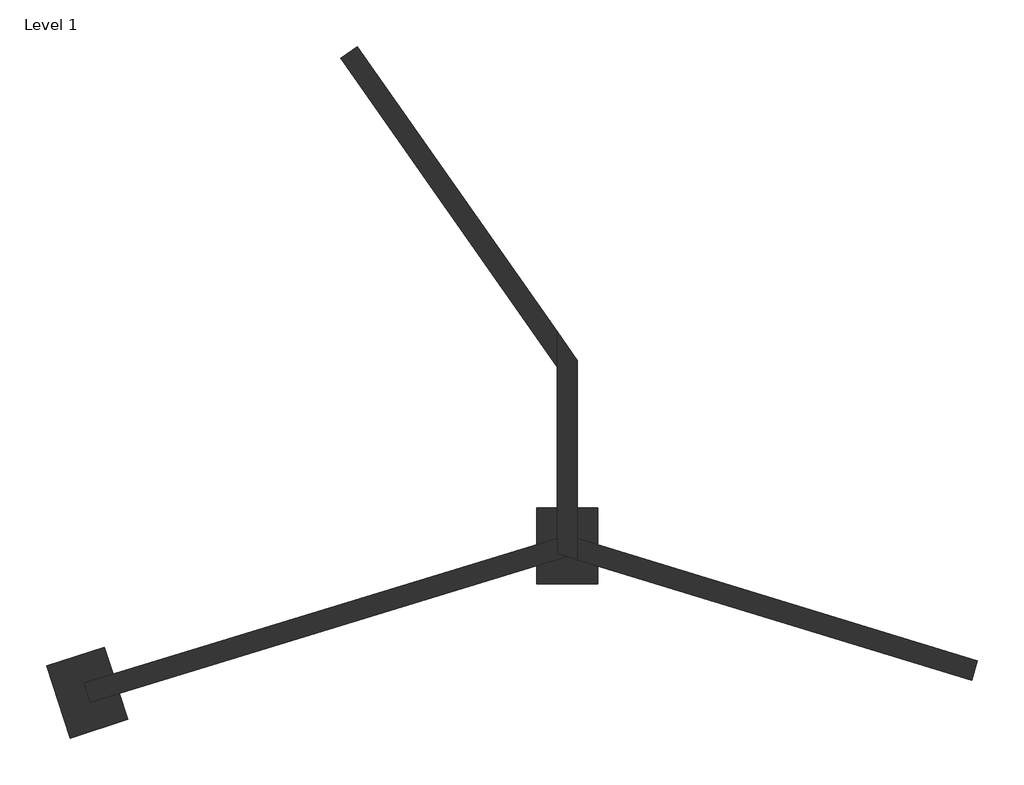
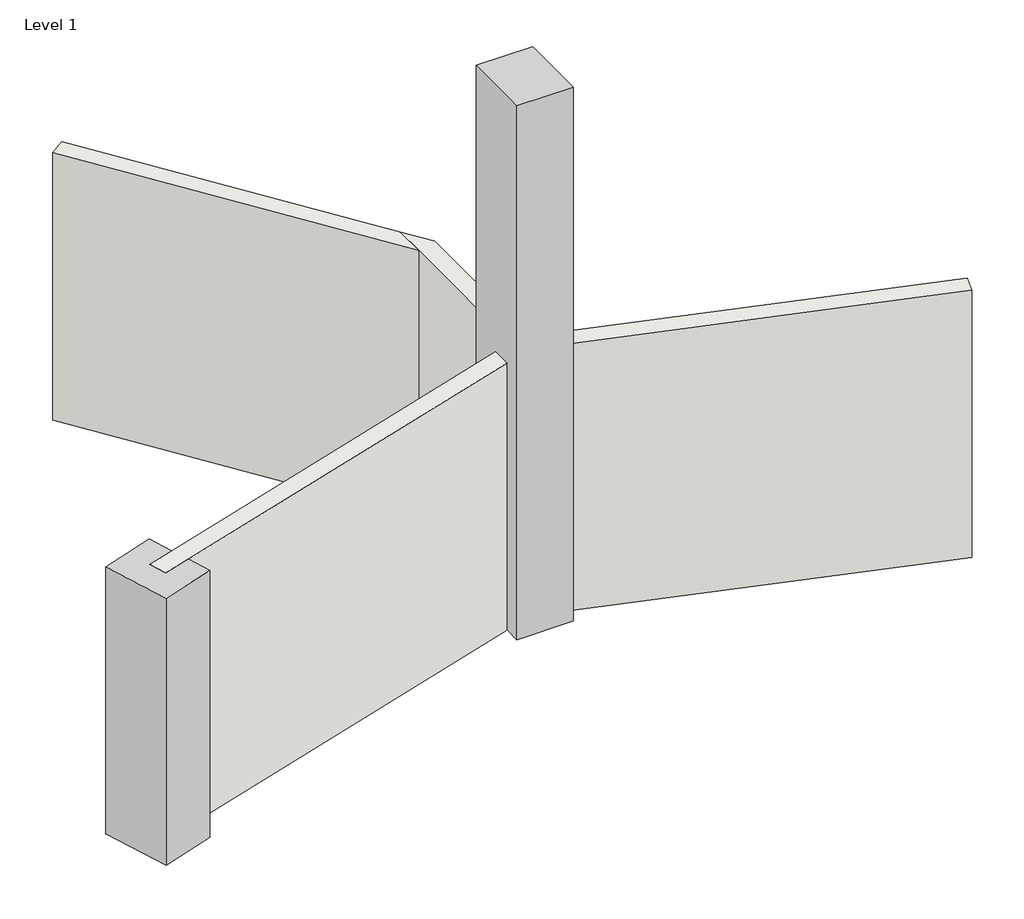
# One storey: 4 walls, 2 columns.
"""IFC4 building model written with IfcOpenShell, lengths in millimetres."""

from ifc_helpers import new_model, si_unit, origin, origin_with_axes, place, context, project, spatial, polyline, outline, extrude, faceted_brep, element, save

model = new_model("IFC4")

# Units and contexts
model_context = context("Model", 3, world=origin())
ifc_project = project(units=[si_unit("LENGTHUNIT", "METRE", prefix="MILLI")], contexts=[model_context])

# Site, building, storey
site = spatial("IfcSite", under=ifc_project)
building = spatial("IfcBuilding", under=site)
storey = spatial("IfcBuildingStorey", under=building, Name="Level 1", Elevation=0.0)

# Columns
placement = place(None, origin())
element("IfcColumn", 1, ObjectType="Concrete-Rectangular-Column : 24 x 30", at=placement, inside=storey, context=model_context, shape_type="Brep", body=[
    faceted_brep([(14725.7003136, 17168.388492, 0.0), (14928.9003136, 17168.388492, 0.0), (14928.9003136, 16800.4440627, 0.0), (14725.7003136, 16862.5685372, 0.0), (14928.9003136, 17168.388492, 6096.0), (14928.9003136, 16406.388492, 6096.0), (14928.9003136, 16406.388492, 0.0), (14928.9003136, 16587.9594978, 0.0), (14928.9003136, 16587.9594978, 3048.0), (14928.9003136, 16800.4440627, 3048.0), (14319.3003136, 16406.388492, 0.0), (14319.3003136, 16406.388492, 6096.0), (14319.3003136, 17168.388492, 6096.0), (14319.3003136, 17168.388492, 0.0), (14319.3003136, 16800.4440627, 0.0), (14319.3003136, 16800.4440627, 3048.0), (14319.3003136, 16587.9594978, 3048.0), (14319.3003136, 16587.9594978, 0.0), (14725.7003136, 17168.388492, 3048.0), (14522.5003136, 17168.388492, 3048.0), (14522.5003136, 17168.388492, 0.0), (14522.5003136, 16862.5685372, 3048.0), (14522.5003136, 16862.5685372, 0.0), (14725.7003136, 16862.5685372, 3048.0), (14725.7003136, 16650.0839723, 3048.0), (14624.1003136, 16681.1462095, 3048.0), (14725.7003136, 16650.0839723, 0.0), (14624.1003136, 16681.1462095, 0.0)], [[[0, 1, 2, 3]], [[4, 5, 6, 7, 8, 9, 2, 1]], [[10, 6, 5, 11]], [[10, 11, 12, 13, 14, 15, 16, 17]], [[4, 1, 0, 18, 19, 20, 13, 12]], [[5, 4, 12, 11]], [[20, 19, 21, 22]], [[18, 0, 3, 23]], [[19, 18, 23, 9, 8, 24, 25, 16, 15, 21]], [[8, 7, 26, 27, 25, 24]], [[9, 23, 3, 2]], [[13, 20, 22, 14]], [[21, 15, 14, 22]], [[16, 25, 27, 17]], [[6, 10, 17, 27, 26, 7]]]),
])
element("IfcColumn", 2, ObjectType="Concrete-Rectangular-Column : 24 x 30", at=placement, inside=storey, context=model_context, shape_type="SweptSolid", body=[
    extrude(outline(polyline([(10222.269936, 15048.8285618), (9642.5058836, 14860.451802), (9407.0349339, 15585.1568674), (9986.7989863, 15773.5336272), (10074.7776163, 15502.763246), (9784.9474697, 15414.1532778), (9844.3574001, 15219.8321514), (10137.5794345, 15309.4791238), (10222.269936, 15048.8285618)])), origin_with_axes(), (0.0, 0.0, 1.0), 3048.0),
])

# Walls
element("IfcWall", 3, ObjectType="Generic - 8\"", at=placement, inside=storey, context=model_context, shape_type="Brep", body=[
    faceted_brep([(14522.5003136, 18938.4225239, 0.0), (14522.5003136, 18584.154135, 0.0), (14522.5003136, 17168.388492, 0.0), (14522.5003136, 16862.5685372, 0.0), (14522.5003136, 16712.2084468, 0.0), (14522.5003136, 16712.2084468, 3048.0), (14522.5003136, 16862.5685372, 3048.0), (14522.5003136, 17168.388492, 3048.0), (14522.5003136, 18584.154135, 3048.0), (14522.5003136, 18938.4225239, 3048.0), (14725.7003136, 18648.2228489, 0.0), (14725.7003136, 18648.2228489, 3048.0), (14725.7003136, 17168.388492, 3048.0), (14725.7003136, 16862.5685372, 3048.0), (14725.7003136, 16650.0839723, 3048.0), (14725.7003136, 16650.0839723, 0.0), (14725.7003136, 16862.5685372, 0.0), (14725.7003136, 17168.388492, 0.0), (14624.1003136, 16681.1462095, 0.0), (14624.1003136, 16681.1462095, 3048.0)], [[[0, 1, 2, 3, 4, 5, 6, 7, 8, 9]], [[10, 11, 12, 13, 14, 15, 16, 17]], [[4, 3, 2, 1, 0, 10, 17, 16, 15, 18]], [[9, 8, 7, 6, 5, 19, 14, 13, 12, 11]], [[5, 4, 18, 15, 14, 19]], [[0, 9, 11, 10]]]),
])
element("IfcWall", 4, ObjectType="Generic - 8\"", at=placement, inside=storey, context=model_context, shape_type="Brep", body=[
    faceted_brep([(14725.7003136, 16650.0839723, 0.0), (14928.9003136, 16587.9594978, 0.0), (18675.1390031, 15442.6193904, 0.0), (18675.1390031, 15442.6193904, 3048.0), (14928.9003136, 16587.9594978, 3048.0), (14725.7003136, 16650.0839723, 3048.0), (14725.7003136, 16862.5685372, 0.0), (14725.7003136, 16862.5685372, 3048.0), (14928.9003136, 16800.4440627, 3048.0), (18734.5489335, 15636.9405168, 3048.0), (18734.5489335, 15636.9405168, 0.0), (14928.9003136, 16800.4440627, 0.0)], [[[0, 1, 2, 3, 4, 5]], [[6, 7, 8, 9, 10, 11]], [[2, 1, 0, 6, 11, 10]], [[3, 2, 10, 9]], [[5, 4, 3, 9, 8, 7]], [[0, 5, 7, 6]]]),
])
element("IfcWall", 5, ObjectType="Generic - 8\"", at=placement, inside=storey, context=model_context, shape_type="Brep", body=[
    faceted_brep([(14522.5003136, 16862.5685372, 0.0), (14319.3003136, 16800.4440627, 0.0), (10074.7776163, 15502.763246, 0.0), (9784.9474697, 15414.1532778, 0.0), (9784.9474697, 15414.1532778, 3048.0), (10074.7776163, 15502.763246, 3048.0), (14319.3003136, 16800.4440627, 3048.0), (14522.5003136, 16862.5685372, 3048.0), (14624.1003136, 16681.1462095, 0.0), (14624.1003136, 16681.1462095, 3048.0), (14319.3003136, 16587.9594978, 3048.0), (10137.5794345, 15309.4791238, 3048.0), (9844.3574001, 15219.8321514, 3048.0), (9844.3574001, 15219.8321514, 0.0), (10137.5794345, 15309.4791238, 0.0), (14319.3003136, 16587.9594978, 0.0), (14522.5003136, 16712.2084468, 0.0), (14522.5003136, 16712.2084468, 3048.0)], [[[0, 1, 2, 3, 4, 5, 6, 7]], [[8, 9, 10, 11, 12, 13, 14, 15]], [[3, 2, 1, 0, 16, 8, 15, 14, 13]], [[4, 3, 13, 12]], [[7, 6, 5, 4, 12, 11, 10, 9, 17]], [[0, 7, 17, 16]], [[17, 9, 8, 16]]]),
])
element("IfcWall", 6, ObjectType="Generic - 8\"", at=placement, inside=storey, context=model_context, shape_type="SweptSolid", body=[
    extrude(outline(polyline([(12521.9999388, 21795.4331467), (14522.5003136, 18938.4225239), (14522.5003136, 18584.154135), (12355.5482434, 21678.8824148), (12521.9999388, 21795.4331467)])), origin_with_axes(), (0.0, 0.0, 1.0), 3048.0),
])

save(model, "model.ifc")
